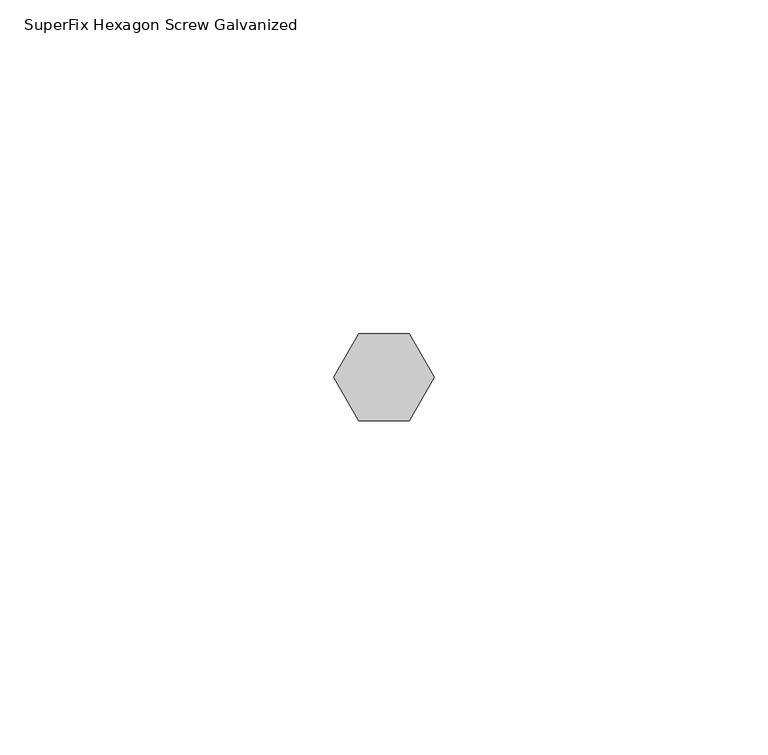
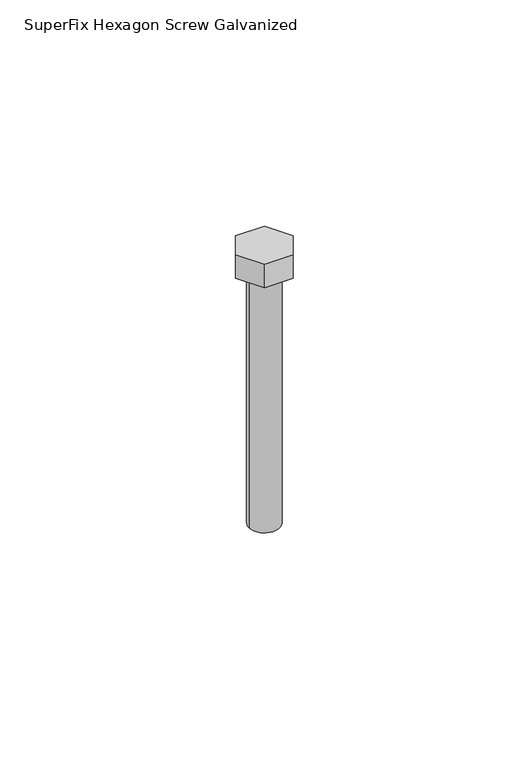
"""IFC4 building model written with IfcOpenShell, lengths in millimetres: valve geometry, SuperFix Hexagon Screw Galvanized : Hexagon Screw Galvanized M8 × 70."""

from ifc_helpers import new_model, si_unit, frame, origin, origin_with_axes, place, context, project, spatial, circle_curve, source, transform, mapped, element, save
from ifc_brep_helpers import plane_surface, cylinder_surface, advanced_brep


def superfix_hexagon_screw_galvanized_68d17cb7(model_context):
    return source(origin(), model_context, "Body", "AdvancedBrep", [
        advanced_brep(
        [(-7.5055535, 0.0, 6.5), (-3.7527767, -6.5, 6.5), (3.7527767, -6.5, 6.5), (7.5055535, 0.0, 6.5), (3.7527767, 6.5, 6.5), (-3.7527767, 6.5, 6.5), (-7.5055535, 0.0, 0.0), (-3.7527767, 6.5, 0.0), (3.7527767, 6.5, 0.0), (7.5055535, 0.0, 0.0), (3.7527767, -6.5, 0.0), (-3.7527767, -6.5, 0.0), (-4.0, 0.0, 0.0), (4.0, 0.0, 0.0), (-4.0, 0.0, -70.0), (4.0, 0.0, -70.0)],
        [
            (0, 1),
            (1, 2),
            (2, 3),
            (3, 4),
            (4, 5),
            (5, 0),
            (6, 7),
            (7, 8),
            (8, 9),
            (9, 10),
            (10, 11),
            (11, 6),
            (12, 13, circle_curve(origin_with_axes(), 4.0)),
            (13, 12, circle_curve(origin_with_axes(), 4.0)),
            (5, 7),
            (6, 0),
            (4, 8),
            (3, 9),
            (2, 10),
            (1, 11),
            (14, 15, circle_curve(frame((0.0, 0.0, -70.0), z_axis=(0.0, 0.0, -1.0), x_axis=(1.0, 0.0, 0.0)), 4.0)),
            (15, 14, circle_curve(frame((0.0, 0.0, -70.0), z_axis=(0.0, 0.0, -1.0), x_axis=(1.0, 0.0, 0.0)), 4.0)),
            (14, 12),
            (13, 15),
        ],
        [
            plane_surface(frame((-7.5055535, 0.0, 6.5), z_axis=(0.0, 0.0, 1.0), x_axis=(0.49999999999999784, 0.8660254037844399, 0.0))),
            plane_surface(frame((-7.5055535, 0.0, 0.0), z_axis=(0.0, 0.0, -1.0), x_axis=(-0.49999999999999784, -0.8660254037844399, 0.0))),
            plane_surface(frame((-7.5055535, 0.0, 6.5), z_axis=(-0.8660254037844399, 0.49999999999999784, 0.0), x_axis=(0.0, 0.0, -1.0))),
            plane_surface(frame((-3.7527767, 6.5, 6.5), z_axis=(0.0, 1.0, 0.0), x_axis=(0.0, 0.0, -1.0))),
            plane_surface(frame((3.7527767, 6.5, 6.5), z_axis=(0.8660254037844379, 0.5000000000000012, 0.0), x_axis=(0.0, 0.0, -1.0))),
            plane_surface(frame((7.5055535, 0.0, 6.5), z_axis=(0.8660254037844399, -0.4999999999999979, 0.0), x_axis=(0.0, 0.0, -1.0))),
            plane_surface(frame((3.7527767, -6.5, 6.5), z_axis=(0.0, -1.0, 0.0), x_axis=(0.0, 0.0, -1.0))),
            plane_surface(frame((-3.7527767, -6.5, 6.5), z_axis=(-0.866025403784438, -0.5000000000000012, 0.0), x_axis=(0.0, 0.0, -1.0))),
            plane_surface(frame((4.0, 0.0, -70.0), z_axis=(0.0, 0.0, -1.0), x_axis=(0.0, 1.0, 0.0))),
            cylinder_surface(frame((0.0, 0.0, -70.0), z_axis=(0.0, 0.0, 1.0), x_axis=(1.0, 0.0, 0.0)), 4.0),
        ],
        [
            (0, [[1, 2, 3, 4, 5, 6]]),
            (1, [[7, 8, 9, 10, 11, 12], [13, 14]]),
            (2, [[15, -7, 16, -6]]),
            (3, [[17, -8, -15, -5]]),
            (4, [[18, -9, -17, -4]]),
            (5, [[19, -10, -18, -3]]),
            (6, [[20, -11, -19, -2]]),
            (7, [[-16, -12, -20, -1]]),
            (8, [[21, 22]]),
            (9, [[23, -14, 24, -21]]),
            (9, [[-24, -13, -23, -22]]),
        ],
    ),
    ])


if __name__ == "__main__":
    model = new_model("IFC4")
    model_context = context("Model", 3, world=origin())
    ifc_project = project(units=[si_unit("LENGTHUNIT", "METRE", prefix="MILLI")], contexts=[model_context])
    site = spatial("IfcSite", under=ifc_project)
    building = spatial("IfcBuilding", under=site)
    placement = place(None, origin())
    superfix_hexagon_screw_galvanized_shape = superfix_hexagon_screw_galvanized_68d17cb7(model_context)
    element("IfcValve", 1, ObjectType="SuperFix Hexagon Screw Galvanized : Hexagon Screw Galvanized M8 × 70", at=placement, inside=building, context=model_context, shape_type="MappedRepresentation", body=[
        mapped(superfix_hexagon_screw_galvanized_shape, transform((0.0, 0.0, 0.0), x_axis=(1.0, 0.0, 0.0), y_axis=(0.0, 1.0, 0.0), z_axis=(0.0, 0.0, 1.0))),
    ])
    save(model, "model.ifc")
